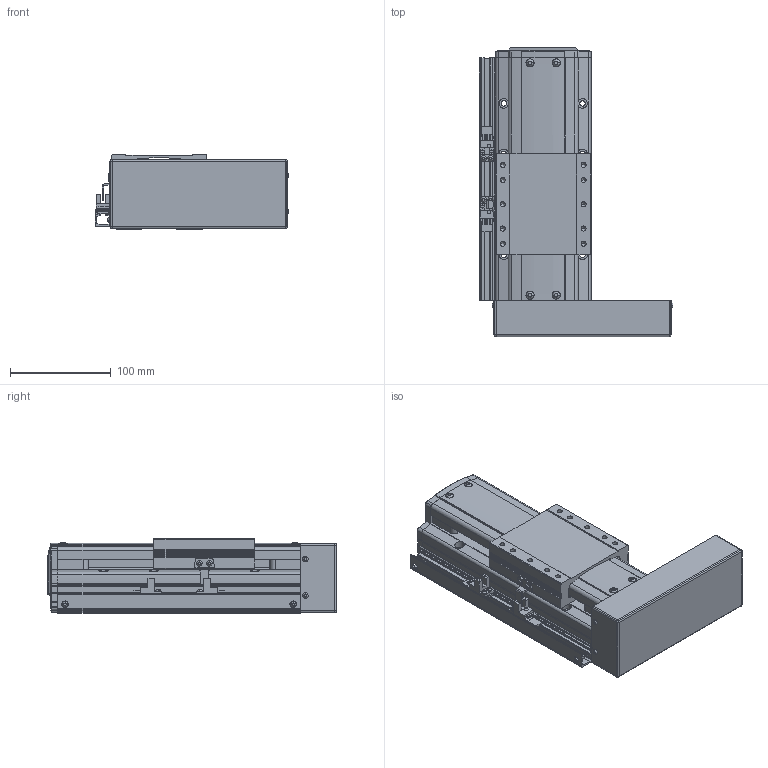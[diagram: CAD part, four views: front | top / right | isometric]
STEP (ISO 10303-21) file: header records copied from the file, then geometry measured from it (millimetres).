
FILE_DESCRIPTION(('STEP AP214'),'1');
FILE_NAME('Z:/Web/3D/PSA95/STP/PSA95-050 (3D)/PSA95ㅁㅁ-050PR+2SL.stp','2014-07-02T23:35:29',(' '),(' '),'Spatial InterOp 3D',' ',' ');
FILE_SCHEMA(('automotive_design'));
Length unit declared in the file: millimetre
Products named in the file (37): BASE; RRCV; 스크루 : Round - M4.0 x 10.0; 너트 : Square - M10.0 x 220.7419; RR1500; FRCV-090; 스크루 : Round - M4.0 x 6.0; SLBL-PA90; MOTOR PLATE COVER; 스크루 : Round - M3.0 x 6.0; EE-SX674; SBK-SX674-352; M3.0 x 6.0; SRL-16x17-380L; SGD-PA95; 스크루 : Round - M3.0 x 8.0
Bounding box: 192.06 x 286.5 x 74 mm (x, y, z)
Volume: 1887763.4 mm3; surface area: 264902.1 mm2
Topology: 37 solids, 37 shells, 2113 faces, 5648 edges, 3657 vertices
Faces by surface type: plane 1305, cylinder 557, cone 155, sphere 58, bspline 24, torus 14
Entity records: 85372 total; most frequent: CARTESIAN_POINT 14396, DIRECTION 11200, ORIENTED_EDGE 11148, EDGE_CURVE 5574, LINE 3906, VECTOR 3906, VERTEX_POINT 3657, AXIS2_PLACEMENT_3D 3647
